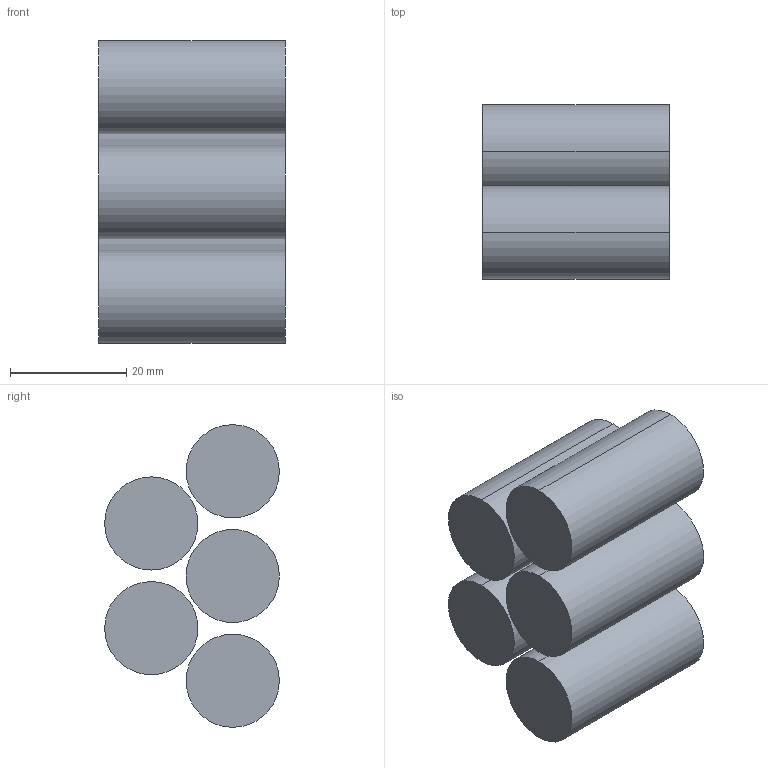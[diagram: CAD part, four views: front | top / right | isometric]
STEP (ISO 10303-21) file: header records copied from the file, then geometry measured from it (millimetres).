
FILE_DESCRIPTION (( 'STEP AP214' ), '1' );
FILE_NAME ('Accu_NiMH_52x32_30_1700mAh.STEP', '2026-02-22T20:09:34', ( '' ), ( '' ), 'SwSTEP 2.0', 'SolidWorks 2024', '' );
FILE_SCHEMA (( 'AUTOMOTIVE_DESIGN' ));
Length unit declared in the file: millimetre
Products named in the file (1): Accu_NiMH_52x32_30_1700mAh
Bounding box: 32 x 30 x 52 mm (x, y, z)
Volume: 32169.9 mm3; surface area: 10053.1 mm2
Topology: 5 solids, 5 shells, 20 faces, 30 edges, 20 vertices
Faces by surface type: cylinder 10, plane 10
Entity records: 513 total; most frequent: DIRECTION 92, CARTESIAN_POINT 71, ORIENTED_EDGE 60, AXIS2_PLACEMENT_3D 41, EDGE_CURVE 30, EDGE_LOOP 20, ADVANCED_FACE 20, CIRCLE 20
